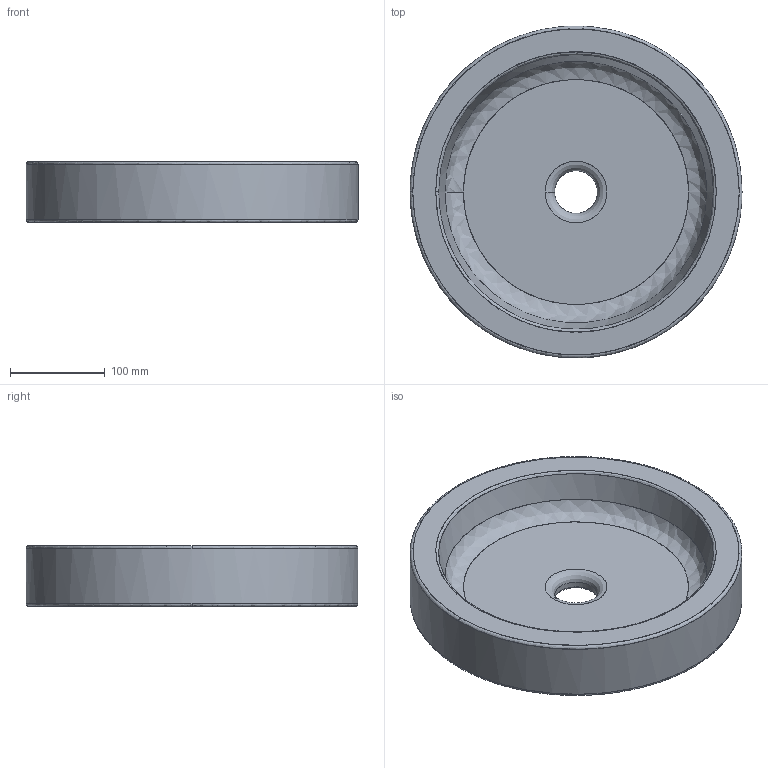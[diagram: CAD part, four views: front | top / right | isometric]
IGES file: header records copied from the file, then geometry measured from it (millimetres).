
Start section: C
Global section: file name: Bucket 35 H-6.igs; native system:  By UGS Corp.; preprocessor: XPlus GENERIC/IGES 3.0; author: Author; organization: Title; date: 20140108.095759; units: millimetre
Bounding box: 350 x 349.37 x 64 mm (x, y, z)
Surface area: 289866.8 mm2 (no closed solid volume)
Topology: 0 solids, 0 shells, 23 faces, 124 edges, 124 vertices
Faces by surface type: bspline 23
